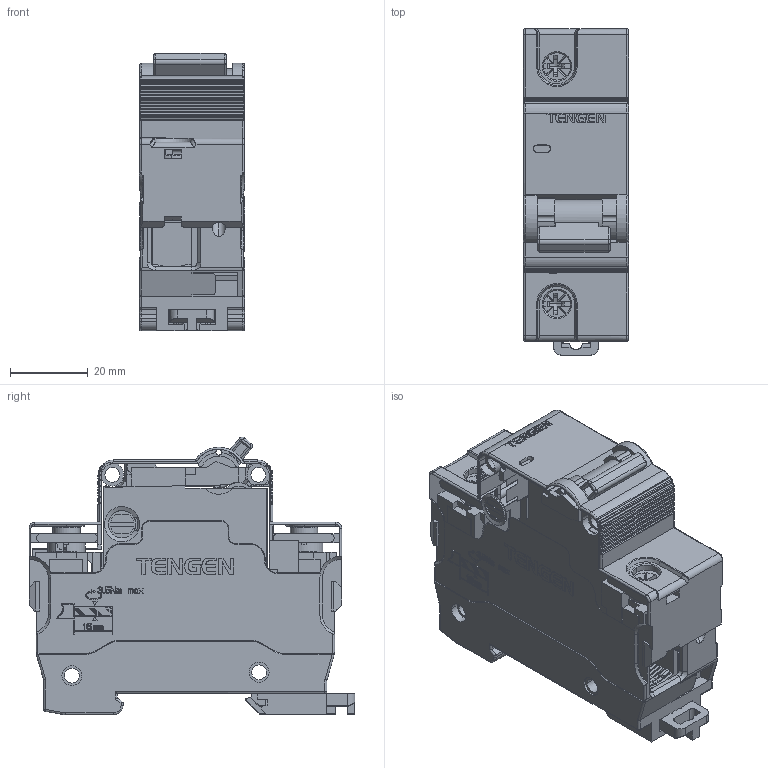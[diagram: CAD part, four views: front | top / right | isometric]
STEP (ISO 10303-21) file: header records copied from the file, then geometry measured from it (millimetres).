
FILE_DESCRIPTION (( 'STEP AP214' ), '1' );
FILE_NAME ('TGB1N-125 1P.STEP', '2025-12-15T13:35:23', ( '' ), ( '' ), 'SwSTEP 2.0', 'SolidWorks 2024', '' );
FILE_SCHEMA (( 'AUTOMOTIVE_DESIGN' ));
Length unit declared in the file: millimetre
Products named in the file (5): TGB1N-125_1P_63-125A_SW0001_3.stp; TGB1N-125 1P.stp; TGB1N-125_1P_63-125A_SW0001_2.stp; TGB1N-125_1P_63-125A_SW0001_1.stp; TGB1N-125 1P
Assembly tree (4 placements, depth 3):
  TGB1N-125 1P
    TGB1N-125 1P.stp
      TGB1N-125_1P_63-125A_SW0001_1.stp
      TGB1N-125_1P_63-125A_SW0001_2.stp
      TGB1N-125_1P_63-125A_SW0001_3.stp
Bounding box: 27 x 83.73 x 71.39 mm (x, y, z)
Volume: 656.7 mm3; surface area: 44602.2 mm2
Topology: 1 solids, 3 shells, 3317 faces, 9266 edges, 5986 vertices
Faces by surface type: plane 2256, cylinder 561, torus 230, bspline 173, cone 85, sphere 12
Entity records: 114427 total; most frequent: CARTESIAN_POINT 31645, ORIENTED_EDGE 18436, DIRECTION 15390, EDGE_CURVE 9218, LINE 6492, VECTOR 6492, VERTEX_POINT 5974, AXIS2_PLACEMENT_3D 4449
